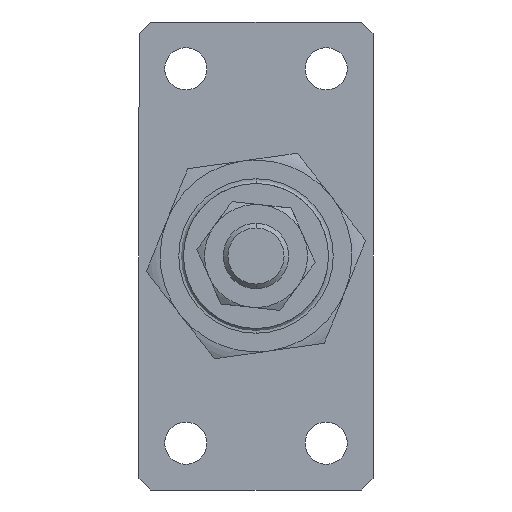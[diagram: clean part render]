
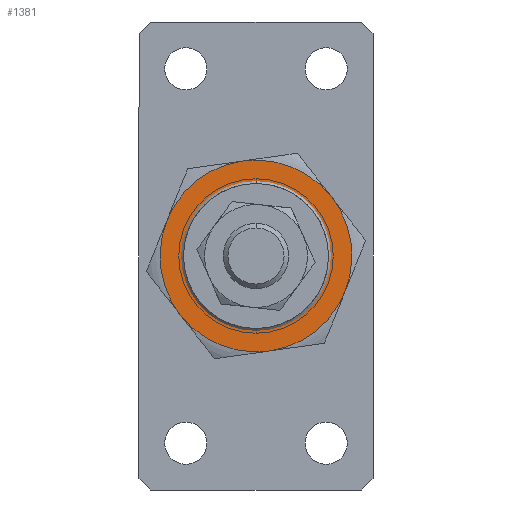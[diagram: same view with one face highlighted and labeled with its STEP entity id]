
A CAD part, left-side view. The second image highlights one B-rep face of the part: STEP entity #1381.
In plain terms, the highlighted planar face has unit normal (-1, 0, 0) as drawn and (0, 0, -1) by its records, which use the part's own axes.
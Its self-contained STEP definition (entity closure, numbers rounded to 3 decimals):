
#16 = ORIENTED_EDGE ( 'NONE', *, *, #1257, .F. ) ;
#33 = VERTEX_POINT ( 'NONE', #3383 ) ;
#95 = VERTEX_POINT ( 'NONE', #2187 ) ;
#169 = PLANE ( 'NONE',  #2193 ) ;
#191 = CARTESIAN_POINT ( 'NONE',  ( 10.25, -17.754, -5.5 ) ) ;
#238 = DIRECTION ( 'NONE',  ( 1., 0., 0. ) ) ;
#244 = ORIENTED_EDGE ( 'NONE', *, *, #3037, .F. ) ;
#309 = CARTESIAN_POINT ( 'NONE',  ( 0., 0., -5.5 ) ) ;
#331 = FACE_BOUND ( 'NONE', #3799, .T. ) ;
#394 = CIRCLE ( 'NONE', #2565, 20.5 ) ;
#493 = ORIENTED_EDGE ( 'NONE', *, *, #2569, .F. ) ;
#609 = DIRECTION ( 'NONE',  ( 1., 0., 0. ) ) ;
#627 = DIRECTION ( 'NONE',  ( 1., 0., 0. ) ) ;
#690 = EDGE_CURVE ( 'NONE', #33, #1366, #3977, .T. ) ;
#718 = AXIS2_PLACEMENT_3D ( 'NONE', #1936, #3255, #609 ) ;
#770 = AXIS2_PLACEMENT_3D ( 'NONE', #3806, #4161, #2333 ) ;
#805 = DIRECTION ( 'NONE',  ( 0., 0., 1. ) ) ;
#893 = EDGE_CURVE ( 'NONE', #2821, #33, #394, .T. ) ;
#904 = CIRCLE ( 'NONE', #1039, 15.5 ) ;
#1039 = AXIS2_PLACEMENT_3D ( 'NONE', #1249, #1842, #1775 ) ;
#1075 = CARTESIAN_POINT ( 'NONE',  ( 0., 0., -5.5 ) ) ;
#1101 = AXIS2_PLACEMENT_3D ( 'NONE', #309, #2607, #627 ) ;
#1231 = ORIENTED_EDGE ( 'NONE', *, *, #2521, .T. ) ;
#1249 = CARTESIAN_POINT ( 'NONE',  ( 0., 0., -5.5 ) ) ;
#1257 = EDGE_CURVE ( 'NONE', #1366, #3288, #4170, .T. ) ;
#1292 = CARTESIAN_POINT ( 'NONE',  ( 0., 0., -5.5 ) ) ;
#1366 = VERTEX_POINT ( 'NONE', #2975 ) ;
#1381 = ADVANCED_FACE ( 'NONE', ( #331, #1457 ), #169, .F. ) ;
#1457 = FACE_OUTER_BOUND ( 'NONE', #3365, .T. ) ;
#1510 = DIRECTION ( 'NONE',  ( 0., 0., 1. ) ) ;
#1587 = CARTESIAN_POINT ( 'NONE',  ( 20.5, 0., -5.5 ) ) ;
#1593 = DIRECTION ( 'NONE',  ( 0., 0., 1. ) ) ;
#1624 = CARTESIAN_POINT ( 'NONE',  ( 0., 0., -5.5 ) ) ;
#1656 = CIRCLE ( 'NONE', #2918, 20.5 ) ;
#1748 = VERTEX_POINT ( 'NONE', #1587 ) ;
#1775 = DIRECTION ( 'NONE',  ( 1., 0., 0. ) ) ;
#1842 = DIRECTION ( 'NONE',  ( 0., 0., 1. ) ) ;
#1936 = CARTESIAN_POINT ( 'NONE',  ( 0., 0., -5.5 ) ) ;
#2069 = DIRECTION ( 'NONE',  ( 0., 0., 1. ) ) ;
#2107 = ORIENTED_EDGE ( 'NONE', *, *, #893, .F. ) ;
#2156 = CARTESIAN_POINT ( 'NONE',  ( 0., 0., -5.5 ) ) ;
#2187 = CARTESIAN_POINT ( 'NONE',  ( -15.5, 0., -5.5 ) ) ;
#2193 = AXIS2_PLACEMENT_3D ( 'NONE', #2246, #2626, #2902 ) ;
#2233 = ORIENTED_EDGE ( 'NONE', *, *, #690, .F. ) ;
#2246 = CARTESIAN_POINT ( 'NONE',  ( 0., 0., -5.5 ) ) ;
#2333 = DIRECTION ( 'NONE',  ( 1., 0., 0. ) ) ;
#2436 = DIRECTION ( 'NONE',  ( 1., 0., 0. ) ) ;
#2521 = EDGE_CURVE ( 'NONE', #4425, #95, #904, .T. ) ;
#2565 = AXIS2_PLACEMENT_3D ( 'NONE', #1292, #2069, #2436 ) ;
#2569 = EDGE_CURVE ( 'NONE', #1748, #3279, #2679, .T. ) ;
#2607 = DIRECTION ( 'NONE',  ( 0., 0., 1. ) ) ;
#2626 = DIRECTION ( 'NONE',  ( 0., 0., 1. ) ) ;
#2679 = CIRCLE ( 'NONE', #718, 20.5 ) ;
#2821 = VERTEX_POINT ( 'NONE', #3418 ) ;
#2878 = CARTESIAN_POINT ( 'NONE',  ( 15.5, 0., -5.5 ) ) ;
#2902 = DIRECTION ( 'NONE',  ( 1., 0., 0. ) ) ;
#2918 = AXIS2_PLACEMENT_3D ( 'NONE', #1624, #805, #3746 ) ;
#2975 = CARTESIAN_POINT ( 'NONE',  ( -10.25, -17.754, -5.5 ) ) ;
#3037 = EDGE_CURVE ( 'NONE', #3279, #2821, #3263, .T. ) ;
#3063 = EDGE_CURVE ( 'NONE', #3288, #1748, #1656, .T. ) ;
#3077 = AXIS2_PLACEMENT_3D ( 'NONE', #1075, #1593, #238 ) ;
#3255 = DIRECTION ( 'NONE',  ( 0., 0., 1. ) ) ;
#3263 = CIRCLE ( 'NONE', #770, 20.5 ) ;
#3279 = VERTEX_POINT ( 'NONE', #4277 ) ;
#3288 = VERTEX_POINT ( 'NONE', #191 ) ;
#3365 = EDGE_LOOP ( 'NONE', ( #493, #4010, #16, #2233, #2107, #244 ) ) ;
#3383 = CARTESIAN_POINT ( 'NONE',  ( -20.5, 0., -5.5 ) ) ;
#3418 = CARTESIAN_POINT ( 'NONE',  ( -10.25, 17.754, -5.5 ) ) ;
#3541 = CIRCLE ( 'NONE', #1101, 15.5 ) ;
#3746 = DIRECTION ( 'NONE',  ( 1., 0., 0. ) ) ;
#3799 = EDGE_LOOP ( 'NONE', ( #1231, #4163 ) ) ;
#3806 = CARTESIAN_POINT ( 'NONE',  ( 0., 0., -5.5 ) ) ;
#3854 = DIRECTION ( 'NONE',  ( 1., 0., 0. ) ) ;
#3977 = CIRCLE ( 'NONE', #3077, 20.5 ) ;
#4010 = ORIENTED_EDGE ( 'NONE', *, *, #3063, .F. ) ;
#4112 = AXIS2_PLACEMENT_3D ( 'NONE', #2156, #1510, #3854 ) ;
#4161 = DIRECTION ( 'NONE',  ( 0., 0., 1. ) ) ;
#4163 = ORIENTED_EDGE ( 'NONE', *, *, #4497, .T. ) ;
#4170 = CIRCLE ( 'NONE', #4112, 20.5 ) ;
#4277 = CARTESIAN_POINT ( 'NONE',  ( 10.25, 17.754, -5.5 ) ) ;
#4425 = VERTEX_POINT ( 'NONE', #2878 ) ;
#4497 = EDGE_CURVE ( 'NONE', #95, #4425, #3541, .T. ) ;
